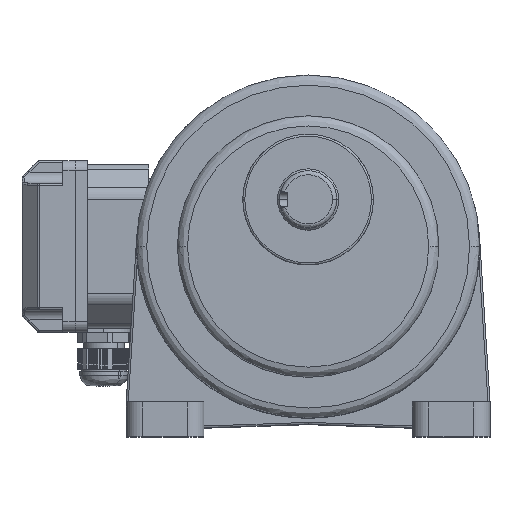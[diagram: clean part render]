
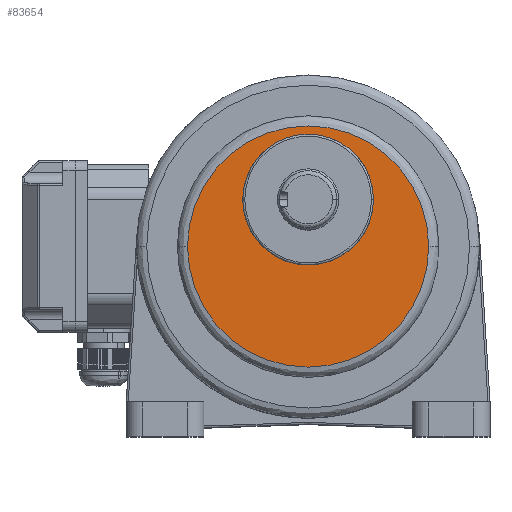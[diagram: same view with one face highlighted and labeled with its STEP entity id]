
A CAD part, top view. The second image highlights one B-rep face of the part: STEP entity #83654.
In plain terms, the highlighted planar face has unit normal (0, 0, 1).
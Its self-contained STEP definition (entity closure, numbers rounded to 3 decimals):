
#1142 = EDGE_CURVE ( 'NONE', #28715, #98627, #37642, .T. ) ;
#2338 = ORIENTED_EDGE ( 'NONE', *, *, #35449, .T. ) ;
#13000 = VERTEX_POINT ( 'NONE', #62221 ) ;
#13123 = CIRCLE ( 'NONE', #65314, 59. ) ;
#14558 = CARTESIAN_POINT ( 'NONE',  ( 100.529, -207.513, 153.948 ) ) ;
#15687 = CARTESIAN_POINT ( 'NONE',  ( 41.529, -207.513, 153.948 ) ) ;
#23096 = DIRECTION ( 'NONE',  ( 0., 0., 1. ) ) ;
#28715 = VERTEX_POINT ( 'NONE', #34388 ) ;
#29131 = PLANE ( 'NONE',  #31538 ) ;
#30968 = DIRECTION ( 'NONE',  ( 1., 0., 0. ) ) ;
#31281 = FACE_BOUND ( 'NONE', #76634, .T. ) ;
#31538 = AXIS2_PLACEMENT_3D ( 'NONE', #97742, #23096, #62353 ) ;
#32543 = AXIS2_PLACEMENT_3D ( 'NONE', #53682, #79277, #94549 ) ;
#34388 = CARTESIAN_POINT ( 'NONE',  ( -17.471, -207.513, 153.948 ) ) ;
#34559 = CARTESIAN_POINT ( 'NONE',  ( 41.529, -184.513, 153.948 ) ) ;
#35449 = EDGE_CURVE ( 'NONE', #98627, #28715, #13123, .T. ) ;
#37642 = CIRCLE ( 'NONE', #41014, 59. ) ;
#39791 = EDGE_LOOP ( 'NONE', ( #2338, #55709 ) ) ;
#41014 = AXIS2_PLACEMENT_3D ( 'NONE', #89911, #97538, #58307 ) ;
#44835 = ORIENTED_EDGE ( 'NONE', *, *, #82010, .F. ) ;
#47018 = CIRCLE ( 'NONE', #57445, 32. ) ;
#53393 = CIRCLE ( 'NONE', #32543, 32. ) ;
#53682 = CARTESIAN_POINT ( 'NONE',  ( 41.529, -184.513, 153.948 ) ) ;
#54786 = CARTESIAN_POINT ( 'NONE',  ( 9.529, -184.513, 153.948 ) ) ;
#55709 = ORIENTED_EDGE ( 'NONE', *, *, #1142, .T. ) ;
#57445 = AXIS2_PLACEMENT_3D ( 'NONE', #34559, #85210, #68320 ) ;
#58307 = DIRECTION ( 'NONE',  ( 1., 0., 0. ) ) ;
#62221 = CARTESIAN_POINT ( 'NONE',  ( 73.529, -184.513, 153.948 ) ) ;
#62353 = DIRECTION ( 'NONE',  ( 1., 0., 0. ) ) ;
#65314 = AXIS2_PLACEMENT_3D ( 'NONE', #15687, #82724, #30968 ) ;
#68320 = DIRECTION ( 'NONE',  ( 1., 0., 0. ) ) ;
#71016 = EDGE_CURVE ( 'NONE', #100893, #13000, #53393, .T. ) ;
#75574 = ORIENTED_EDGE ( 'NONE', *, *, #71016, .F. ) ;
#76634 = EDGE_LOOP ( 'NONE', ( #44835, #75574 ) ) ;
#79277 = DIRECTION ( 'NONE',  ( 0., 0., 1. ) ) ;
#80868 = FACE_OUTER_BOUND ( 'NONE', #39791, .T. ) ;
#82010 = EDGE_CURVE ( 'NONE', #13000, #100893, #47018, .T. ) ;
#82724 = DIRECTION ( 'NONE',  ( 0., 0., 1. ) ) ;
#83654 = ADVANCED_FACE ( 'NONE', ( #80868, #31281 ), #29131, .T. ) ;
#85210 = DIRECTION ( 'NONE',  ( 0., 0., 1. ) ) ;
#89911 = CARTESIAN_POINT ( 'NONE',  ( 41.529, -207.513, 153.948 ) ) ;
#94549 = DIRECTION ( 'NONE',  ( 1., 0., 0. ) ) ;
#97538 = DIRECTION ( 'NONE',  ( 0., 0., 1. ) ) ;
#97742 = CARTESIAN_POINT ( 'NONE',  ( 41.529, -207.513, 153.948 ) ) ;
#98627 = VERTEX_POINT ( 'NONE', #14558 ) ;
#100893 = VERTEX_POINT ( 'NONE', #54786 ) ;
